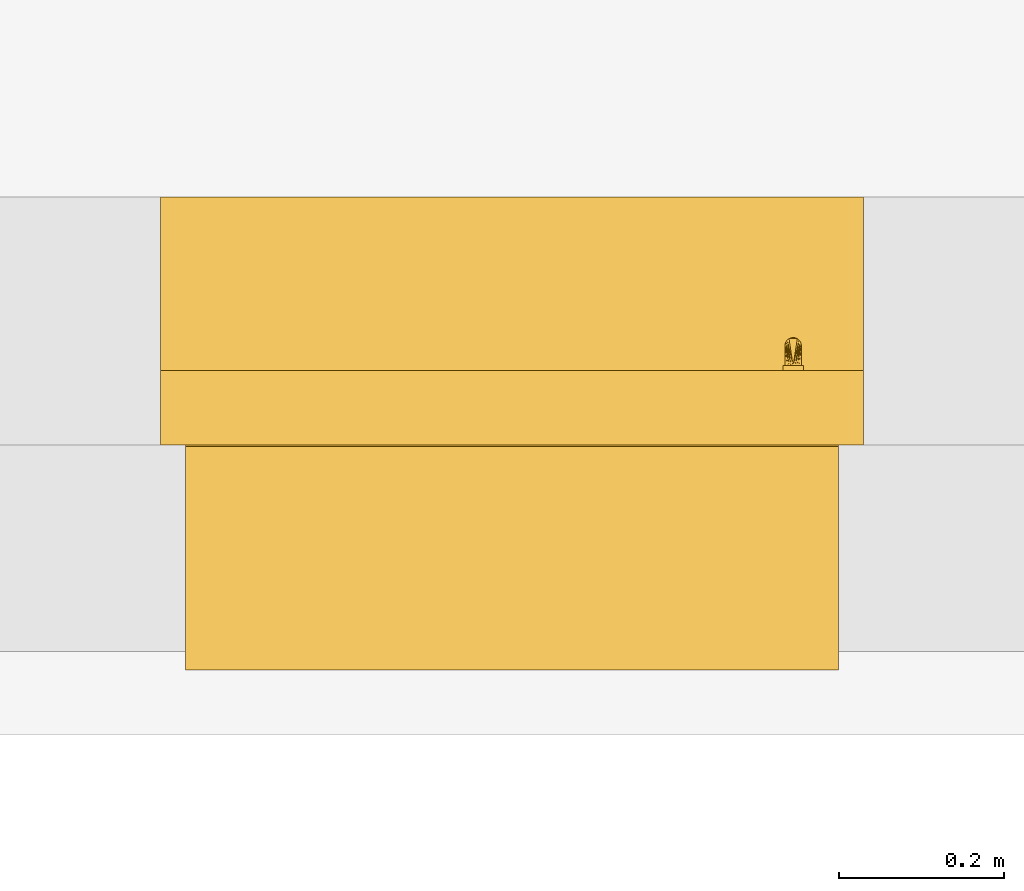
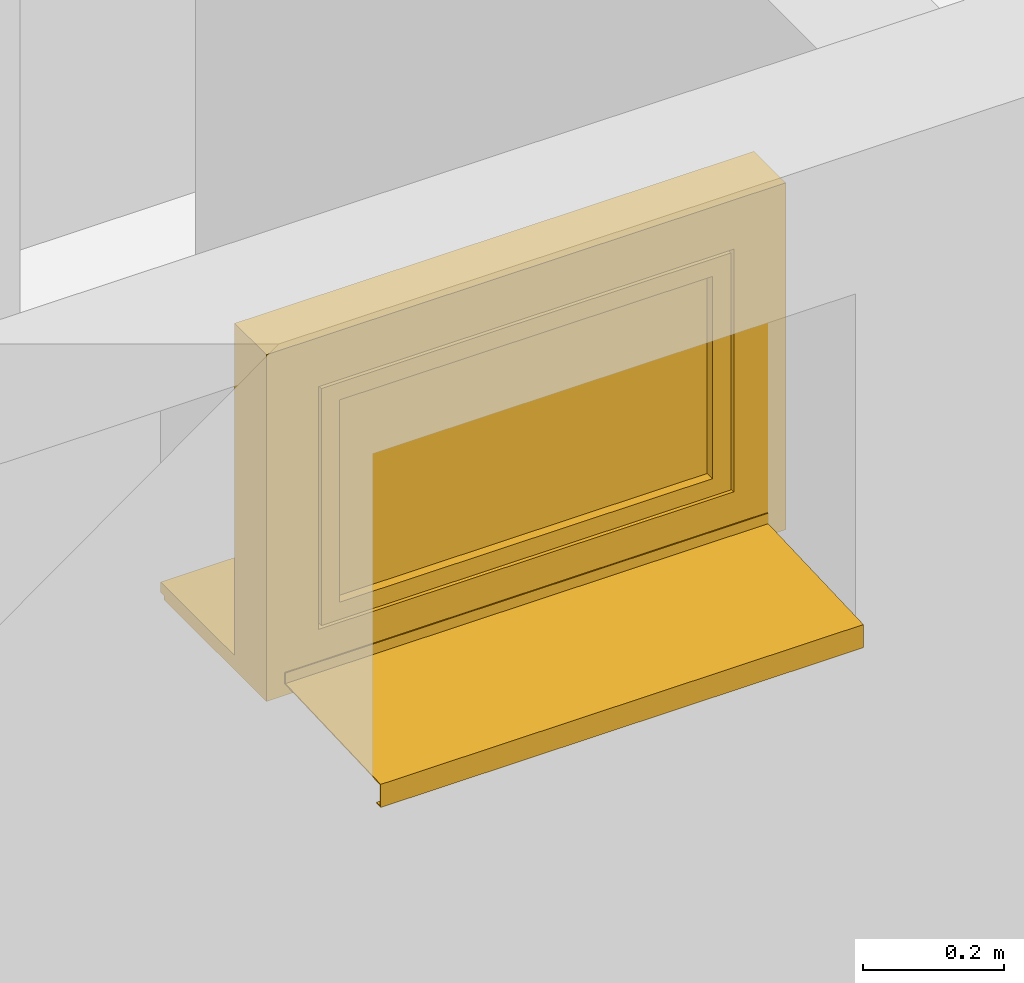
# One storey, part 18 of 22: 1 window.
"""IFC2X3 building model written with IfcOpenShell, lengths in metres."""

from ifc_helpers import new_model, entity, si_unit, converted_unit, derived_unit, direction, frame, origin, origin_2d_with_axis, place, context, subcontext, project, spatial, polyline, rectangle, outline, extrude, faceted_brep, source, transform, mapped, material, material_list, type_object, type_shapes, element, save


model = new_model("IFC2X3")

# Units and contexts
model_context = context("Model", 3, precision=1e-05, world=origin(), true_north=direction((6.123233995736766e-17, 1.0)))
body_context = subcontext(model_context, "Body", "Model", "MODEL_VIEW")
ifc_project = project(units=[si_unit("LENGTHUNIT", "METRE"), si_unit("AREAUNIT", "SQUARE_METRE"), si_unit("VOLUMEUNIT", "CUBIC_METRE"), si_unit("POWERUNIT", "WATT"), derived_unit("USERDEFINED", [(si_unit("MASSUNIT", "GRAM", prefix="KILO"), 1), (si_unit("TIMEUNIT", "SECOND"), -3)]), derived_unit("THERMALRESISTANCEUNIT", [(si_unit("MASSUNIT", "GRAM", prefix="KILO"), -1), (si_unit("TIMEUNIT", "SECOND"), 3), (si_unit("THERMODYNAMICTEMPERATUREUNIT", "KELVIN"), 1)]), derived_unit("USERDEFINED", [(si_unit("MASSUNIT", "GRAM", prefix="KILO"), 1), (si_unit("TIMEUNIT", "SECOND"), -2), (si_unit("THERMODYNAMICTEMPERATUREUNIT", "KELVIN"), -1)]), derived_unit("THERMALTRANSMITTANCEUNIT", [(si_unit("MASSUNIT", "GRAM", prefix="KILO"), 1), (si_unit("TIMEUNIT", "SECOND"), -3), (si_unit("THERMODYNAMICTEMPERATUREUNIT", "KELVIN"), -1)]), converted_unit("PLANEANGLEUNIT", "DEGREE", entity("IfcPlaneAngleMeasure", 0.017453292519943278), si_unit("PLANEANGLEUNIT", "RADIAN"), dimensions=[0, 0, 0, 0, 0, 0, 0]), derived_unit("MOMENTOFINERTIAUNIT", [(si_unit("LENGTHUNIT", "METRE"), 4)])], contexts=[model_context])

# Site, building, storey
site_placement = place(None, origin())
site = spatial("IfcSite", under=ifc_project, at=site_placement, Name="Default", CompositionType="ELEMENT")
building_placement = place(site_placement, origin())
building = spatial("IfcBuilding", under=site, at=building_placement, CompositionType="ELEMENT")
storey_placement = place(building_placement, origin())
storey = spatial("IfcBuildingStorey", under=building, at=storey_placement, Name="Untergeschoss", CompositionType="ELEMENT", Elevation=0.0)

# Window
ifc_material_1 = material(Name="Glas - Isolierverglasung klar")
ifc_material_2 = material(Name="Holz - generisch 140-100-70")
ifc_material_3 = material(Name="Metall - Edelstahl gebürstet")
ifc_material_4 = material(Name="Kunststoff - grau 70-70-70")
ifc_material_list = material_list([ifc_material_1, ifc_material_2, ifc_material_3, ifc_material_4])
window_style = type_object("IfcWindowStyle", Name="FE 1 tlg - DrehKipp:850 x 600", ConstructionType="NOTDEFINED", OperationType="NOTDEFINED", ParameterTakesPrecedence=False, Sizeable=False, material=ifc_material_list)
shared_shape = source(origin(), body_context, "Body", "SolidModel", [
    extrude(rectangle(XDim=0.6100000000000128, YDim=0.04399999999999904, at=origin_2d_with_axis()), frame((0.425000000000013, 0.26300000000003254, 0.13000000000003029), z_axis=(0.0, 0.0, 1.0), x_axis=(-1.0, 0.0, 0.0)), (0.0, 0.0, 1.0), 0.34999999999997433),
    extrude(outline(polyline([(-0.07333333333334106, -0.014333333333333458), (0.13666666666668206, -0.014333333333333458), (0.13666666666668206, 0.010666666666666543), (-0.06333333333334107, 0.010666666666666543), (-0.06333333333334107, 0.00366666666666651), (-0.07333333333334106, 0.00366666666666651), (-0.07333333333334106, -0.014333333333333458)])), frame((0.8500000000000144, 0.07333333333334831, 0.010666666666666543), z_axis=(-1.0, 0.0, 0.0), x_axis=(0.0, 1.0, 0.0)), (0.0, 0.0, 1.0), 0.8499999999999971),
    faceted_brep([(0.07250000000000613, 0.21000000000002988, 0.28749999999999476), (0.07250000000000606, 0.21000000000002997, 0.30499999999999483), (0.07250000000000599, 0.21000000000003, 0.3224999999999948), (0.07292592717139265, 0.21000000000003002, 0.32573523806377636), (0.07417468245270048, 0.21000000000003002, 0.3287499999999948), (0.07616116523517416, 0.21000000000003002, 0.3313388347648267), (0.078750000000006, 0.21000000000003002, 0.3333253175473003), (0.08176476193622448, 0.21000000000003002, 0.3345740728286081), (0.08500000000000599, 0.21000000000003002, 0.3349999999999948), (0.08823523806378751, 0.21000000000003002, 0.3345740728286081), (0.09125000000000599, 0.21000000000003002, 0.3333253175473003), (0.09383883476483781, 0.21000000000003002, 0.3313388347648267), (0.0958253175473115, 0.21000000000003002, 0.3287499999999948), (0.09707407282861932, 0.21000000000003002, 0.32573523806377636), (0.09750000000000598, 0.21000000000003, 0.3224999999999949), (0.09750000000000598, 0.21000000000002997, 0.30499999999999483), (0.09750000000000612, 0.21000000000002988, 0.28749999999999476), (0.09707407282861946, 0.21000000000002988, 0.2842647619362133), (0.09582531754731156, 0.21000000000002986, 0.28124999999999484), (0.09383883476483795, 0.21000000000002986, 0.278661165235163), (0.09125000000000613, 0.21000000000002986, 0.2766746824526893), (0.08823523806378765, 0.21000000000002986, 0.27542592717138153), (0.08500000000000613, 0.21000000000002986, 0.27499999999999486), (0.0817647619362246, 0.21000000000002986, 0.27542592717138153), (0.07875000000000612, 0.21000000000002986, 0.2766746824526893), (0.0761611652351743, 0.21000000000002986, 0.278661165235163), (0.07417468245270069, 0.21000000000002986, 0.28124999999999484), (0.07292592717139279, 0.21000000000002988, 0.2842647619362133), (0.07633974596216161, 0.17500000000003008, 0.3099999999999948), (0.08000000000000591, 0.20400000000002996, 0.3136602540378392), (0.07534074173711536, 0.17741180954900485, 0.30758819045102), (0.07792893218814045, 0.17292893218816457, 0.3120710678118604), (0.0824118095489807, 0.20400000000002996, 0.31465925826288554), (0.08758819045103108, 0.17034074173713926, 0.31465925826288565), (0.09000000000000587, 0.1713397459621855, 0.3136602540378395), (0.08000000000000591, 0.17133974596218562, 0.3136602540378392), (0.08241180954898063, 0.1703407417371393, 0.31465925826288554), (0.08500000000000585, 0.17000000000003, 0.314999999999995), (0.08500000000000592, 0.20400000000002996, 0.31499999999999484), (0.07534074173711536, 0.20400000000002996, 0.30758819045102), (0.07500000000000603, 0.20400000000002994, 0.30499999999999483), (0.07500000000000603, 0.19171565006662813, 0.30499999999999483), (0.07500000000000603, 0.18585782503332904, 0.30499999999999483), (0.07500000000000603, 0.18292891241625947, 0.30499999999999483), (0.07500000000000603, 0.18000000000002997, 0.30499999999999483), (0.07633974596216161, 0.20400000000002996, 0.3099999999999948), (0.07792893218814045, 0.20400000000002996, 0.3120710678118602), (0.0920710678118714, 0.1729289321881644, 0.3120710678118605), (0.09000000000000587, 0.20400000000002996, 0.31366025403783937), (0.09366025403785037, 0.17500000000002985, 0.30999999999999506), (0.09465925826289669, 0.17741180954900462, 0.30758819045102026), (0.08758819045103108, 0.20400000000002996, 0.31465925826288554), (0.0920710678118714, 0.20400000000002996, 0.3120710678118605), (0.09500000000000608, 0.18000000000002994, 0.30499999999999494), (0.09366025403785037, 0.20400000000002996, 0.30999999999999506), (0.09465925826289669, 0.20400000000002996, 0.30758819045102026), (0.09500000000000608, 0.18292891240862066, 0.30499999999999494), (0.09500000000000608, 0.18585782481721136, 0.30499999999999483), (0.09500000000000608, 0.19171564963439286, 0.30499999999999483), (0.09500000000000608, 0.20400000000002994, 0.3049999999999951), (0.09207106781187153, 0.18707106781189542, 0.29792893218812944), (0.09366025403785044, 0.18500000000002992, 0.2999999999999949), (0.09465925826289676, 0.18258819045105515, 0.3024118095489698), (0.09465925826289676, 0.20400000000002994, 0.3024118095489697), (0.09000000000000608, 0.1886602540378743, 0.29633974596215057), (0.08758819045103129, 0.18965925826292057, 0.2953407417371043), (0.09207106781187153, 0.2040000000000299, 0.29792893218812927), (0.09366025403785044, 0.20400000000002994, 0.2999999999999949), (0.090000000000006, 0.2040000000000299, 0.29633974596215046), (0.08758819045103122, 0.2040000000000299, 0.2953407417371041), (0.08500000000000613, 0.1900000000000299, 0.29499999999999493), (0.08500000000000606, 0.2040000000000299, 0.2949999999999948), (0.07792893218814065, 0.18707106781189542, 0.29792893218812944), (0.08000000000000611, 0.18866025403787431, 0.29633974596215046), (0.08241180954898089, 0.1896592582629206, 0.2953407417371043), (0.07792893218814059, 0.2040000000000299, 0.29792893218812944), (0.07534074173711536, 0.20400000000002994, 0.3024118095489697), (0.07534074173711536, 0.18258819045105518, 0.3024118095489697), (0.07633974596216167, 0.18500000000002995, 0.2999999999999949), (0.08241180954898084, 0.2040000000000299, 0.2953407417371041), (0.08000000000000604, 0.2040000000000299, 0.29633974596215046), (0.07633974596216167, 0.20400000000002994, 0.2999999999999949), (0.07500000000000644, 0.1800000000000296, 0.1849999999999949), (0.07534074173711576, 0.1825881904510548, 0.1849999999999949), (0.07633974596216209, 0.18500000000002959, 0.1849999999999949), (0.077928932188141, 0.18707106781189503, 0.1849999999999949), (0.08000000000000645, 0.18866025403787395, 0.1849999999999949), (0.08241180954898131, 0.18965925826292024, 0.1849999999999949), (0.08500000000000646, 0.19000000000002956, 0.1849999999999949), (0.0875881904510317, 0.18965925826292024, 0.1849999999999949), (0.09000000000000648, 0.18866025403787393, 0.1849999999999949), (0.09207106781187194, 0.187071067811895, 0.1849999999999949), (0.09366025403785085, 0.18500000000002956, 0.1849999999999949), (0.09465925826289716, 0.18258819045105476, 0.1849999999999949), (0.0950000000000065, 0.18000000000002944, 0.1849999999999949), (0.09465925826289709, 0.17741180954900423, 0.1849999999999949), (0.09366025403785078, 0.17500000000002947, 0.1849999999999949), (0.09207106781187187, 0.172928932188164, 0.1849999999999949), (0.09000000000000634, 0.17133974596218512, 0.1849999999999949), (0.08758819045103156, 0.17034074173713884, 0.1849999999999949), (0.08500000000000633, 0.17000000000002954, 0.1849999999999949), (0.08241180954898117, 0.1703407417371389, 0.1849999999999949), (0.08000000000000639, 0.17133974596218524, 0.1849999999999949), (0.07792893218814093, 0.17292893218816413, 0.1849999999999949), (0.07633974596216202, 0.17500000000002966, 0.1849999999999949), (0.07534074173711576, 0.17741180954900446, 0.1849999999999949), (0.07500000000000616, 0.18000000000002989, 0.2773956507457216), (0.07500000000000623, 0.1800000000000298, 0.2497913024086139), (0.09500000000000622, 0.18000000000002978, 0.24979130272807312), (0.09500000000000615, 0.18000000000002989, 0.277395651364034), (0.09582531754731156, 0.20400000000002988, 0.28124999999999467), (0.09383883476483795, 0.20400000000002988, 0.2786611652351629), (0.09707407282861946, 0.20400000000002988, 0.28426476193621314), (0.09750000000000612, 0.2040000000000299, 0.28749999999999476), (0.09750000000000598, 0.20400000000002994, 0.30499999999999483), (0.09750000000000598, 0.20400000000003, 0.3224999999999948), (0.09707407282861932, 0.20400000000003, 0.32573523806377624), (0.0958253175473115, 0.20400000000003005, 0.3287499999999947), (0.09383883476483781, 0.20400000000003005, 0.3313388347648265), (0.09125000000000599, 0.20400000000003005, 0.3333253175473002), (0.08823523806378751, 0.20400000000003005, 0.3345740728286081), (0.08500000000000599, 0.20400000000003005, 0.3349999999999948), (0.08176476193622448, 0.20400000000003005, 0.3345740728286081), (0.078750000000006, 0.20400000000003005, 0.3333253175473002), (0.07616116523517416, 0.20400000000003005, 0.3313388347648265), (0.07417468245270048, 0.20400000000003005, 0.3287499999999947), (0.07292592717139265, 0.20400000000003, 0.32573523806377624), (0.07250000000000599, 0.20400000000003, 0.3224999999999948), (0.07250000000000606, 0.20400000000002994, 0.30499999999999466), (0.07250000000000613, 0.2040000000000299, 0.28749999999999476), (0.07292592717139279, 0.20400000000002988, 0.28426476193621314), (0.07417468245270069, 0.20400000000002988, 0.28124999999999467), (0.0761611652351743, 0.20400000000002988, 0.2786611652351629), (0.07875000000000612, 0.20400000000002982, 0.2766746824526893), (0.0817647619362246, 0.20400000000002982, 0.2754259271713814), (0.08500000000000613, 0.20400000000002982, 0.27499999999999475), (0.08823523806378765, 0.20400000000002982, 0.2754259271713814), (0.09125000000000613, 0.20400000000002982, 0.2766746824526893)], [[[0, 1, 2, 3, 4, 5, 6, 7, 8, 9, 10, 11, 12, 13, 14, 15, 16, 17, 18, 19, 20, 21, 22, 23, 24, 25, 26, 27]], [[28, 29, 30]], [[31, 32, 28]], [[33, 34, 35, 36, 37]], [[32, 31, 38]], [[38, 31, 35]], [[39, 40, 41, 42, 43, 44]], [[39, 44, 45]], [[46, 45, 44]], [[46, 30, 29]], [[44, 30, 46]], [[28, 32, 29]], [[35, 34, 38]], [[47, 38, 34]], [[48, 49, 50]], [[47, 49, 51]], [[52, 50, 53]], [[51, 38, 47]], [[48, 51, 49]], [[54, 52, 53]], [[55, 53, 56, 57, 58, 59]], [[54, 53, 55]], [[48, 50, 52]], [[60, 58, 61]], [[53, 62, 57, 56]], [[58, 63, 59]], [[58, 57, 61]], [[64, 65, 66]], [[58, 64, 66]], [[58, 60, 64]], [[58, 67, 63]], [[65, 68, 66]], [[67, 58, 66]], [[68, 65, 69]], [[70, 71, 69, 65]], [[61, 57, 62]], [[72, 41, 73]], [[74, 73, 75]], [[76, 41, 40]], [[77, 44, 43, 42]], [[42, 78, 77]], [[78, 41, 72]], [[71, 70, 74, 79]], [[80, 79, 74]], [[75, 73, 41]], [[42, 41, 78]], [[41, 76, 81]], [[41, 81, 75]], [[80, 74, 75]], [[82, 83, 84, 85, 86, 87, 88, 89, 90, 91, 92, 93, 94, 95, 96, 97, 98, 99, 100, 101, 102, 103, 104, 105]], [[105, 44, 106, 107, 82]], [[104, 44, 105]], [[102, 101, 36, 35]], [[30, 104, 103]], [[31, 103, 102, 35]], [[103, 28, 30]], [[30, 44, 104]], [[31, 28, 103]], [[100, 37, 36, 101]], [[98, 97, 47, 34]], [[99, 98, 34, 33]], [[95, 94, 108, 109, 53]], [[96, 95, 53]], [[97, 96, 50]], [[33, 37, 100, 99]], [[97, 49, 47]], [[97, 50, 49]], [[96, 53, 50]], [[108, 92, 91]], [[92, 108, 93]], [[89, 65, 108]], [[108, 90, 89]], [[108, 91, 90]], [[93, 108, 94]], [[62, 53, 109]], [[61, 62, 109]], [[70, 65, 89, 88]], [[64, 108, 65]], [[108, 64, 60]], [[109, 60, 61]], [[106, 78, 72]], [[78, 106, 77]], [[85, 107, 86]], [[86, 107, 87]], [[82, 107, 83]], [[44, 77, 106]], [[83, 107, 84]], [[84, 107, 85]], [[74, 70, 88, 87]], [[87, 107, 74]], [[107, 72, 73]], [[107, 106, 72]], [[73, 74, 107]], [[108, 60, 109]], [[110, 71, 111]], [[69, 71, 110]], [[112, 69, 110]], [[112, 113, 69]], [[69, 113, 68]], [[66, 68, 113]], [[67, 66, 113]], [[114, 67, 113]], [[114, 63, 67]], [[114, 59, 63]], [[55, 59, 114]], [[114, 54, 55]], [[54, 114, 115]], [[52, 54, 115]], [[48, 52, 115]], [[51, 48, 115]], [[116, 51, 115]], [[116, 117, 51]], [[51, 117, 38]], [[118, 38, 117]], [[38, 118, 119]], [[119, 120, 38]], [[38, 120, 121]], [[38, 121, 122]], [[122, 123, 38]], [[123, 124, 38]], [[125, 38, 124]], [[32, 38, 125]], [[126, 32, 125]], [[32, 126, 127]], [[29, 32, 127]], [[46, 29, 127]], [[45, 46, 127]], [[127, 128, 45]], [[128, 39, 45]], [[128, 40, 39]], [[128, 76, 40]], [[128, 81, 76]], [[128, 129, 81]], [[81, 129, 75]], [[80, 75, 129]], [[79, 80, 129]], [[79, 129, 130]], [[130, 131, 79]], [[71, 131, 132]], [[71, 79, 131]], [[133, 71, 132]], [[71, 133, 134]], [[135, 71, 134]], [[136, 71, 135]], [[71, 136, 137]], [[111, 71, 137]], [[13, 116, 115, 14]], [[12, 117, 116, 13]], [[119, 118, 11, 10]], [[12, 11, 118, 117]], [[120, 119, 10, 9]], [[121, 120, 9, 8]], [[7, 122, 121, 8]], [[6, 123, 122, 7]], [[125, 124, 5, 4]], [[6, 5, 124, 123]], [[126, 125, 4, 3]], [[127, 126, 3, 2]], [[128, 127, 2, 1, 0, 129]], [[27, 130, 129, 0]], [[26, 131, 130, 27]], [[133, 132, 25, 24]], [[26, 25, 132, 131]], [[134, 133, 24, 23]], [[135, 134, 23, 22]], [[21, 136, 135, 22]], [[20, 137, 136, 21]], [[110, 111, 19, 18]], [[20, 19, 111, 137]], [[112, 110, 18, 17]], [[113, 112, 17, 16]], [[114, 113, 16, 15, 14, 115]]]),
    faceted_brep([(0.7300000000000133, 0.21000000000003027, 0.4799999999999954), (0.730000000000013, 0.30000000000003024, 0.4799999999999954), (0.7300000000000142, 0.30000000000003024, 0.12999999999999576), (0.7300000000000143, 0.2100000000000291, 0.12999999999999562), (0.7600000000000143, 0.300000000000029, 0.09999999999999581), (0.09000000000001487, 0.300000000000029, 0.09999999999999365), (0.09000000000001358, 0.30000000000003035, 0.5099999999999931), (0.760000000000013, 0.30000000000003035, 0.5099999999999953), (0.1200000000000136, 0.30000000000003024, 0.4799999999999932), (0.12000000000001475, 0.30000000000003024, 0.12999999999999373), (0.12000000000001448, 0.2100000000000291, 0.1299999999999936), (0.1200000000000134, 0.21000000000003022, 0.47999999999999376), (0.800000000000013, 0.2100000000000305, 0.5499999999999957), (0.05000000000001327, 0.2100000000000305, 0.5499999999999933), (0.050000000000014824, 0.2100000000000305, 0.05999999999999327), (0.8000000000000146, 0.2100000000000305, 0.0599999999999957), (0.800000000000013, 0.2250000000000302, 0.5499999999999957), (0.8000000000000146, 0.22500000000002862, 0.059999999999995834), (0.050000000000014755, 0.22500000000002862, 0.0599999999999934), (0.05000000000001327, 0.2250000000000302, 0.5499999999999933), (0.7850000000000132, 0.22500000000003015, 0.5349999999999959), (0.06500000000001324, 0.22500000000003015, 0.5349999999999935), (0.0650000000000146, 0.22500000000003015, 0.07499999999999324), (0.7850000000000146, 0.22500000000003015, 0.07499999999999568), (0.7850000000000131, 0.2550000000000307, 0.5349999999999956), (0.7850000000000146, 0.25500000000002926, 0.0749999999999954), (0.06500000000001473, 0.25500000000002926, 0.0749999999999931), (0.06500000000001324, 0.25500000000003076, 0.5349999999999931), (0.775000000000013, 0.2550000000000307, 0.5249999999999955), (0.07500000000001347, 0.2550000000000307, 0.5249999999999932), (0.07500000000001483, 0.2550000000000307, 0.0849999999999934), (0.7750000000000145, 0.2550000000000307, 0.08499999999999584), (0.7750000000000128, 0.2850000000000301, 0.5249999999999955), (0.7750000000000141, 0.28500000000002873, 0.08499999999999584), (0.07500000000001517, 0.28500000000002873, 0.08499999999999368), (0.07500000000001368, 0.2850000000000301, 0.524999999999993), (0.760000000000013, 0.2850000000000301, 0.5099999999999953), (0.09000000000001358, 0.2850000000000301, 0.5099999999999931), (0.09000000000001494, 0.2850000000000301, 0.09999999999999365), (0.7600000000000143, 0.2850000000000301, 0.09999999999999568)], [[[0, 1, 2, 3]], [[4, 5, 6, 7], [1, 8, 9, 2]], [[3, 2, 9, 10]], [[3, 10, 11, 0], [12, 13, 14, 15]], [[16, 12, 15, 17]], [[17, 15, 14, 18]], [[17, 18, 19, 16], [20, 21, 22, 23]], [[24, 20, 23, 25]], [[25, 23, 22, 26]], [[25, 26, 27, 24], [28, 29, 30, 31]], [[32, 28, 31, 33]], [[33, 31, 30, 34]], [[33, 34, 35, 32], [36, 37, 38, 39]], [[7, 36, 39, 4]], [[4, 39, 38, 5]], [[10, 9, 8, 11]], [[18, 14, 13, 19]], [[26, 22, 21, 27]], [[34, 30, 29, 35]], [[5, 38, 37, 6]], [[11, 8, 1, 0]], [[19, 13, 12, 16]], [[27, 21, 20, 24]], [[35, 29, 28, 32]], [[6, 37, 36, 7]]], outer=[[True], [True, False], [True], [False, True], [True], [True], [True, False], [True], [True], [True, False], [True], [True], [True, False], [True], [True], [True], [True], [True], [True], [True], [True], [True], [True], [True], [True]]),
    faceted_brep([(0.8200000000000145, 0.5720000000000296, 0.011120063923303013), (0.030000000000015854, 0.5720000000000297, 0.011120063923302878), (0.030000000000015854, 0.5500000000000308, 0.012000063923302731), (0.030000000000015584, 0.30200000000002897, 0.021920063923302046), (0.8200000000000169, 0.30200000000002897, 0.021920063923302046), (0.8200000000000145, 0.5500000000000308, 0.012000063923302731), (0.8200000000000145, 0.5720000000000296, -0.02887993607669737), (0.030000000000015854, 0.5720000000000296, -0.028879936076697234), (0.8200000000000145, 0.5600000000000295, -0.02887993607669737), (0.030000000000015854, 0.5600000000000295, -0.02887993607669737), (0.8200000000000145, 0.5600000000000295, -0.02687993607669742), (0.030000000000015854, 0.5600000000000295, -0.026879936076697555), (0.8200000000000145, 0.5700000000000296, -0.02687993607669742), (0.030000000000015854, 0.5700000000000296, -0.02687993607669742), (0.8200000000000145, 0.5700000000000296, 0.00920000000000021), (0.030000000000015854, 0.5700000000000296, 0.00920000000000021), (0.8200000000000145, 0.5500000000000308, 0.010000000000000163), (0.8200000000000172, 0.30000000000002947, 0.02000000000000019), (0.030000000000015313, 0.3000000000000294, 0.02000000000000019), (0.030000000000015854, 0.5500000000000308, 0.010000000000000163), (0.8200000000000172, 0.30000000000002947, 0.040000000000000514), (0.030000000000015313, 0.30000000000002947, 0.040000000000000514), (0.8200000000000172, 0.30200000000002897, 0.040000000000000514), (0.030000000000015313, 0.30200000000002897, 0.040000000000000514)], [[[0, 1, 2, 3, 4, 5]], [[6, 7, 1, 0]], [[8, 9, 7, 6]], [[10, 11, 9, 8]], [[12, 13, 11, 10]], [[14, 15, 13, 12]], [[16, 17, 18, 19, 15, 14]], [[20, 21, 18, 17]], [[22, 23, 21, 20]], [[4, 3, 23, 22]], [[16, 14, 12, 10, 8, 6, 0, 5]], [[19, 18, 21, 23, 3, 2]], [[5, 4, 22, 20, 17, 16]], [[2, 1, 7, 9, 11, 13, 15, 19]]]),
    faceted_brep([(0.0, 0.3000000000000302, 0.0), (0.8500000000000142, 0.3000000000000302, 0.0), (0.8500000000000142, 0.21000000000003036, 0.0), (0.0, 0.21000000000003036, 0.0), (0.0, 0.3000000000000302, 0.5999999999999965), (0.0, 0.21000000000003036, 0.5999999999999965), (0.8500000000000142, 0.21000000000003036, 0.5999999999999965), (0.04500000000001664, 0.21000000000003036, 0.5549999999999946), (0.8050000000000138, 0.21000000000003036, 0.5549999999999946), (0.8050000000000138, 0.21000000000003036, 0.05500000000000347), (0.04500000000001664, 0.21000000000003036, 0.05500000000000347), (0.8500000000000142, 0.3000000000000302, 0.5999999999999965), (0.08500000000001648, 0.3000000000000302, 0.09500000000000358), (0.7650000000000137, 0.3000000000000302, 0.09500000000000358), (0.7650000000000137, 0.3000000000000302, 0.5149999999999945), (0.08500000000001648, 0.3000000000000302, 0.5149999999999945), (0.08500000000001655, 0.2850000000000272, 0.5149999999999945), (0.08500000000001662, 0.2850000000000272, 0.09500000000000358), (0.7650000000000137, 0.2850000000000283, 0.09500000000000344), (0.7650000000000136, 0.2850000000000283, 0.5149999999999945), (0.04500000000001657, 0.2250000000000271, 0.5549999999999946), (0.04500000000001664, 0.2250000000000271, 0.0550000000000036), (0.8050000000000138, 0.22500000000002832, 0.05500000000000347), (0.8050000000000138, 0.22500000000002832, 0.5549999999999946), (0.060000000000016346, 0.22500000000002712, 0.5399999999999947), (0.790000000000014, 0.22500000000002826, 0.5399999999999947), (0.790000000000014, 0.22500000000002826, 0.07000000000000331), (0.06000000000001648, 0.22500000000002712, 0.07000000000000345), (0.060000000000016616, 0.2550000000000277, 0.07000000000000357), (0.7900000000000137, 0.25500000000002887, 0.07000000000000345), (0.7900000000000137, 0.25500000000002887, 0.5399999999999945), (0.060000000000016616, 0.2550000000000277, 0.5399999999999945), (0.07000000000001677, 0.2550000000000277, 0.5299999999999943), (0.7800000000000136, 0.25500000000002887, 0.5299999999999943), (0.7800000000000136, 0.25500000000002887, 0.08000000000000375), (0.07000000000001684, 0.2550000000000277, 0.08000000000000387), (0.07000000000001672, 0.2850000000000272, 0.08000000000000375), (0.7800000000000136, 0.2850000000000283, 0.08000000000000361), (0.7800000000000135, 0.2850000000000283, 0.5299999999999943), (0.07000000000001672, 0.2850000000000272, 0.5299999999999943)], [[[0, 1, 2, 3]], [[4, 0, 3, 5]], [[5, 3, 2, 6], [7, 8, 9, 10]], [[6, 2, 1, 11]], [[11, 1, 0, 4], [12, 13, 14, 15]], [[12, 15, 16, 17]], [[18, 19, 14, 13]], [[17, 18, 13, 12]], [[20, 7, 10, 21]], [[10, 9, 22, 21]], [[9, 8, 23, 22]], [[21, 22, 23, 20], [24, 25, 26, 27]], [[28, 29, 30, 31], [32, 33, 34, 35]], [[31, 24, 27, 28]], [[27, 26, 29, 28]], [[36, 37, 38, 39], [16, 19, 18, 17]], [[39, 32, 35, 36]], [[35, 34, 37, 36]], [[26, 25, 30, 29]], [[34, 33, 38, 37]], [[4, 5, 6, 11]], [[20, 23, 8, 7]], [[31, 30, 25, 24]], [[39, 38, 33, 32]], [[15, 14, 19, 16]]]),
])
type_shapes(window_style, [shared_shape])
window_placement = place(storey_placement, frame((35.413754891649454, 15.842272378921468, 1.786278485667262), z_axis=(0.0, 0.0, 1.0), x_axis=(-1.0, 0.0, 0.0)))
element("IfcWindow", 1, at=window_placement, inside=storey, type_object=window_style, material=ifc_material_list, Name="FE 1 tlg - DrehKipp:850 x 600", ObjectType="FE 1 tlg - DrehKipp:850 x 600", OverallHeight=1.450000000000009, OverallWidth=0.8500000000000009, context=body_context, shape_type="MappedRepresentation", body=[
    mapped(shared_shape, transform((0.0, 0.0, 0.0), scale=1.0)),
])

save(model, "model.ifc")
